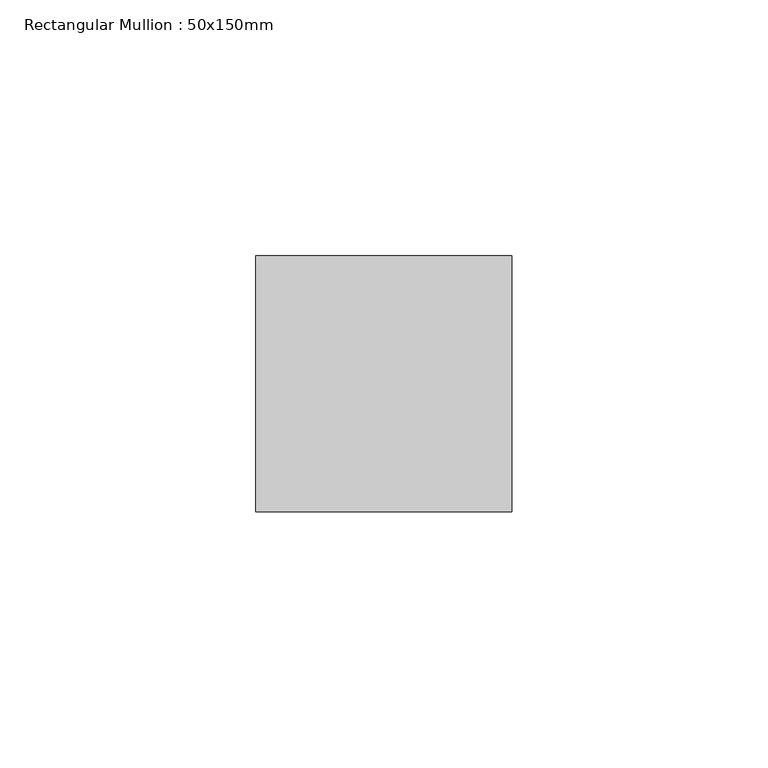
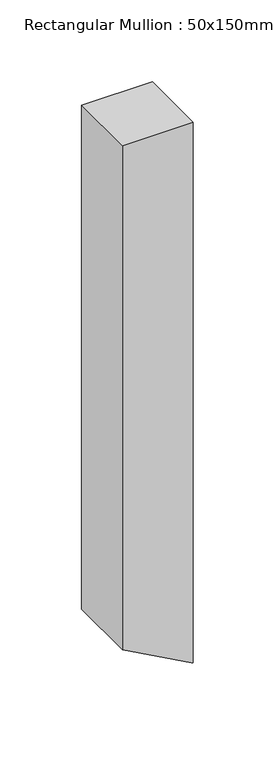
"""IFC4 building model written with IfcOpenShell, lengths in millimetres: member geometry, Rectangular Mullion : 50x150mm."""

from ifc_helpers import new_model, si_unit, frame, origin, place, context, project, spatial, polyline, outline, extrude, source, transform, mapped, element, save


def rectangular_mullion_50x150mm_e94796c8(model_context):
    return source(origin(), model_context, "Body", "SweptSolid", [
        extrude(outline(polyline([(0.0, 25.0), (0.0, -25.0), (-376.5185116, -25.0), (-403.0254589, 23.8474698), (-403.6508763, 25.0), (0.0, 25.0)])), frame((0.0, -25.0, 0.0), z_axis=(0.0, 1.0, 0.0), x_axis=(0.0, 0.0, 1.0)), (0.0, 0.0, 1.0), 50.0),
    ])


if __name__ == "__main__":
    model = new_model("IFC4")
    model_context = context("Model", 3, world=origin())
    ifc_project = project(units=[si_unit("LENGTHUNIT", "METRE", prefix="MILLI")], contexts=[model_context])
    site = spatial("IfcSite", under=ifc_project)
    building = spatial("IfcBuilding", under=site)
    placement = place(None, origin())
    rectangular_mullion_50x150mm_shape = rectangular_mullion_50x150mm_e94796c8(model_context)
    element("IfcMember", 1, ObjectType="Rectangular Mullion : 50x150mm", at=placement, inside=building, context=model_context, shape_type="MappedRepresentation", body=[
        mapped(rectangular_mullion_50x150mm_shape, transform((0.0, 0.0, 0.0), x_axis=(1.0, 0.0, 0.0), y_axis=(0.0, 1.0, 0.0), z_axis=(0.0, 0.0, 1.0))),
    ])
    save(model, "model.ifc")
